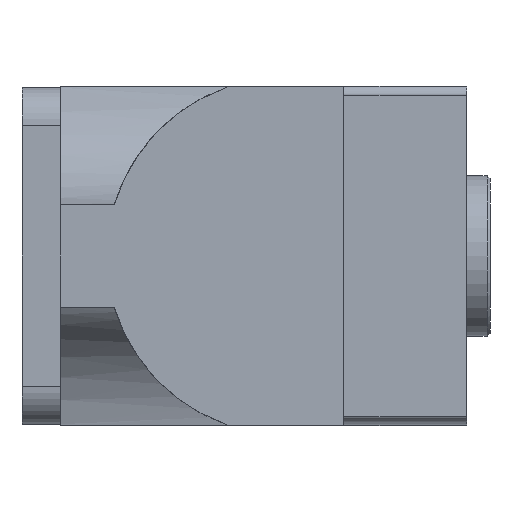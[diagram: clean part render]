
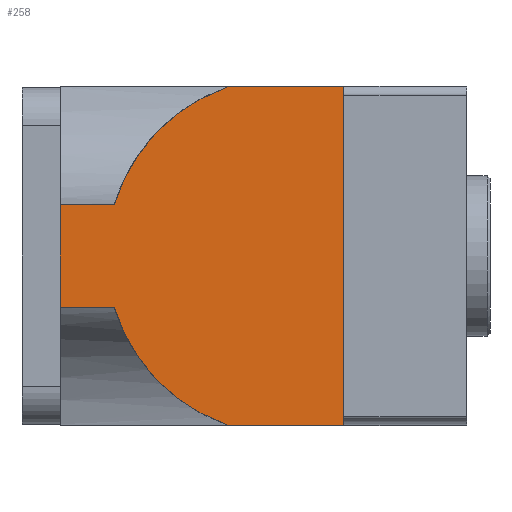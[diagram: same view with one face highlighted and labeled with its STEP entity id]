
A CAD part, front view. The second image highlights one B-rep face of the part: STEP entity #258.
In plain terms, the highlighted planar face has unit normal (0, -1, 0).
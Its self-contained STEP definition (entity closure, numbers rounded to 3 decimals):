
#258 = ADVANCED_FACE( '', ( #655 ), #656, .F. );
#655 = FACE_OUTER_BOUND( '', #1237, .T. );
#656 = PLANE( '', #1238 );
#1237 = EDGE_LOOP( '', ( #1940, #1941, #1942, #1943, #1944, #1945, #1946, #1947, #1948, #1949 ) );
#1238 = AXIS2_PLACEMENT_3D( '', #1950, #1951, #1952 );
#1940 = ORIENTED_EDGE( '', *, *, #3167, .F. );
#1941 = ORIENTED_EDGE( '', *, *, #3168, .F. );
#1942 = ORIENTED_EDGE( '', *, *, #3169, .T. );
#1943 = ORIENTED_EDGE( '', *, *, #3170, .F. );
#1944 = ORIENTED_EDGE( '', *, *, #3171, .F. );
#1945 = ORIENTED_EDGE( '', *, *, #3172, .T. );
#1946 = ORIENTED_EDGE( '', *, *, #3173, .T. );
#1947 = ORIENTED_EDGE( '', *, *, #3174, .F. );
#1948 = ORIENTED_EDGE( '', *, *, #3175, .T. );
#1949 = ORIENTED_EDGE( '', *, *, #3176, .T. );
#1950 = CARTESIAN_POINT( '', ( 152., -58., 58. ) );
#1951 = DIRECTION( '', ( 0., 1., 0. ) );
#1952 = DIRECTION( '', ( 0., 0., 1. ) );
#3167 = EDGE_CURVE( '', #3771, #3772, #3773, .T. );
#3168 = EDGE_CURVE( '', #3774, #3771, #3775, .T. );
#3169 = EDGE_CURVE( '', #3774, #3776, #3777, .T. );
#3170 = EDGE_CURVE( '', #3778, #3776, #3779, .T. );
#3171 = EDGE_CURVE( '', #3780, #3778, #3781, .T. );
#3172 = EDGE_CURVE( '', #3780, #3782, #3783, .T. );
#3173 = EDGE_CURVE( '', #3782, #3784, #3785, .T. );
#3174 = EDGE_CURVE( '', #3786, #3784, #3787, .T. );
#3175 = EDGE_CURVE( '', #3786, #3788, #3789, .T. );
#3176 = EDGE_CURVE( '', #3788, #3772, #3790, .T. );
#3771 = VERTEX_POINT( '', #4584 );
#3772 = VERTEX_POINT( '', #4585 );
#3773 = LINE( '', #4586, #4587 );
#3774 = VERTEX_POINT( '', #4588 );
#3775 = CIRCLE( '', #4589, 61. );
#3776 = VERTEX_POINT( '', #4590 );
#3777 = LINE( '', #4591, #4592 );
#3778 = VERTEX_POINT( '', #4593 );
#3779 = LINE( '', #4594, #4595 );
#3780 = VERTEX_POINT( '', #4596 );
#3781 = LINE( '', #4597, #4598 );
#3782 = VERTEX_POINT( '', #4599 );
#3783 = LINE( '', #4600, #4601 );
#3784 = VERTEX_POINT( '', #4602 );
#3785 = LINE( '', #4603, #4604 );
#3786 = VERTEX_POINT( '', #4605 );
#3787 = CIRCLE( '', #4606, 61. );
#3788 = VERTEX_POINT( '', #4607 );
#3789 = LINE( '', #4608, #4609 );
#3790 = LINE( '', #4610, #4611 );
#4584 = CARTESIAN_POINT( '', ( 31.564, -58., -17.5 ) );
#4585 = CARTESIAN_POINT( '', ( 13., -58., -17.5 ) );
#4586 = CARTESIAN_POINT( '', ( 70., -58., -17.5 ) );
#4587 = VECTOR( '', #5611, 1000. );
#4588 = CARTESIAN_POINT( '', ( 70., -58., -57.628 ) );
#4589 = AXIS2_PLACEMENT_3D( '', #5612, #5613, #5614 );
#4590 = CARTESIAN_POINT( '', ( 70., -58., -58. ) );
#4591 = CARTESIAN_POINT( '', ( 70., -58., 58. ) );
#4592 = VECTOR( '', #5615, 1000. );
#4593 = CARTESIAN_POINT( '', ( 110., -58., -58. ) );
#4594 = CARTESIAN_POINT( '', ( 152., -58., -58. ) );
#4595 = VECTOR( '', #5616, 1000. );
#4596 = CARTESIAN_POINT( '', ( 110., -58., 58. ) );
#4597 = CARTESIAN_POINT( '', ( 110., -58., 58. ) );
#4598 = VECTOR( '', #5617, 1000. );
#4599 = CARTESIAN_POINT( '', ( 70., -58., 58. ) );
#4600 = CARTESIAN_POINT( '', ( 152., -58., 58. ) );
#4601 = VECTOR( '', #5618, 1000. );
#4602 = CARTESIAN_POINT( '', ( 70., -58., 57.628 ) );
#4603 = CARTESIAN_POINT( '', ( 70., -58., 58. ) );
#4604 = VECTOR( '', #5619, 1000. );
#4605 = CARTESIAN_POINT( '', ( 31.564, -58., 17.5 ) );
#4606 = AXIS2_PLACEMENT_3D( '', #5620, #5621, #5622 );
#4607 = CARTESIAN_POINT( '', ( 13., -58., 17.5 ) );
#4608 = CARTESIAN_POINT( '', ( 70., -58., 17.5 ) );
#4609 = VECTOR( '', #5623, 1000. );
#4610 = CARTESIAN_POINT( '', ( 13., -58., 58. ) );
#4611 = VECTOR( '', #5624, 1000. );
#5611 = DIRECTION( '', ( -1., 0., 0. ) );
#5612 = CARTESIAN_POINT( '', ( 90., -58., 0. ) );
#5613 = DIRECTION( '', ( 0., 1., 0. ) );
#5614 = DIRECTION( '', ( 1., 0., 0. ) );
#5615 = DIRECTION( '', ( 0., 0., -1. ) );
#5616 = DIRECTION( '', ( -1., 0., 0. ) );
#5617 = DIRECTION( '', ( 0., 0., -1. ) );
#5618 = DIRECTION( '', ( -1., 0., 0. ) );
#5619 = DIRECTION( '', ( 0., 0., -1. ) );
#5620 = CARTESIAN_POINT( '', ( 90., -58., 0. ) );
#5621 = DIRECTION( '', ( 0., 1., 0. ) );
#5622 = DIRECTION( '', ( 1., 0., 0. ) );
#5623 = DIRECTION( '', ( -1., 0., 0. ) );
#5624 = DIRECTION( '', ( 0., 0., -1. ) );
